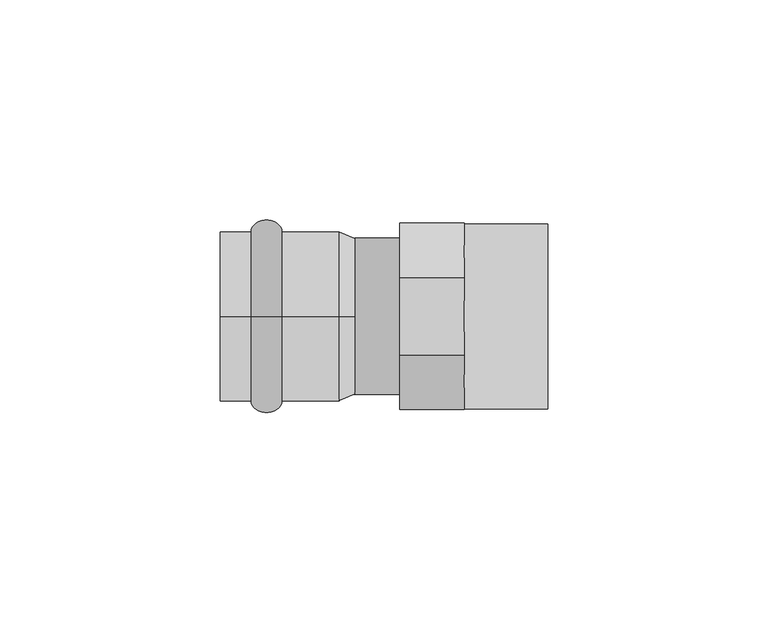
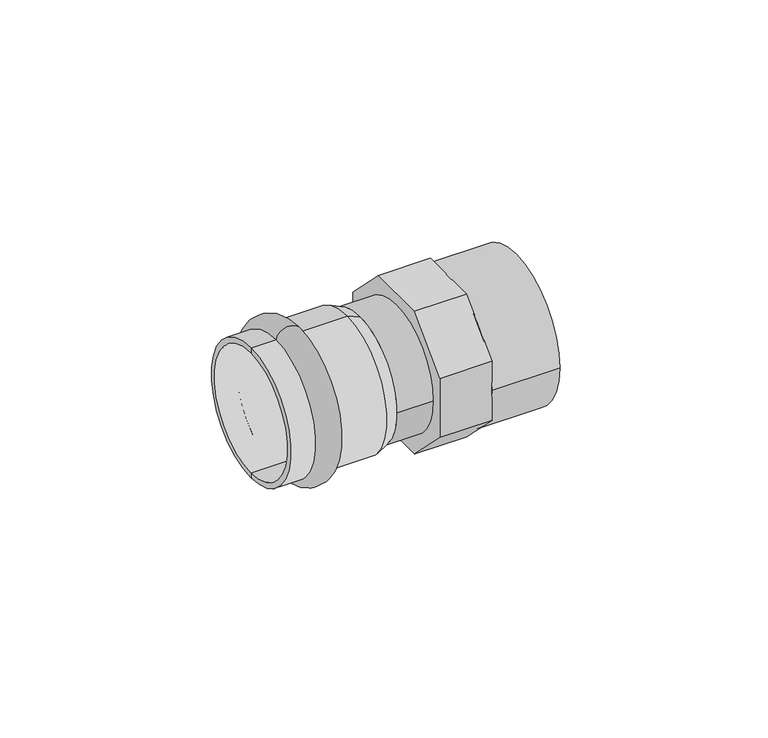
"""IFC4 building model written with IfcOpenShell, lengths in millimetres: pipe fitting geometry."""

from ifc_helpers import new_model, si_unit, point, frame, origin, origin_2d, place, context, project, spatial, polyline, circle_curve, ellipse_curve, trimmed, segment, composite_curve, outline, extrude, source, transform, mapped, element, save
from ifc_brep_helpers import plane_surface, cylinder_surface, revolved_surface, advanced_brep


def pipe_fitting_64316f65(model_context):
    return source(origin(), model_context, "Body", "SolidModel", [
        advanced_brep(
        [(-20.0, 0.0, 19.25), (-20.0, 0.0, -19.25), (-13.0, 0.0, -19.25), (-13.0, 0.0, 19.25)],
        [
            (0, 1, circle_curve(frame((-20.0, 0.0, 0.0), z_axis=(-1.0, 0.0, 0.0), x_axis=(0.0, 0.0, -1.0)), 19.25)),
            (1, 2),
            (2, 3, circle_curve(frame((-13.0, 0.0, 0.0), z_axis=(1.0, 0.0, 0.0), x_axis=(0.0, 0.0, -1.0)), 19.25)),
            (3, 0),
            (1, 0, circle_curve(frame((-20.0, 0.0, 0.0), z_axis=(-1.0, 0.0, 0.0), x_axis=(0.0, 0.0, -1.0)), 19.25)),
            (3, 2, circle_curve(frame((-13.0, 0.0, 0.0), z_axis=(1.0, 0.0, 0.0), x_axis=(0.0, 0.0, -1.0)), 19.25)),
            (2, 1, ellipse_curve(frame((-16.5, 0.0, -19.25), z_axis=(0.0, 1.0, 0.0), x_axis=(-1.0, 0.0, 0.0)), 3.5, 2.75)),
            (0, 3, ellipse_curve(frame((-16.5, 0.0, 19.25), z_axis=(0.0, 1.0, 0.0), x_axis=(-1.0, 0.0, 0.0)), 3.5, 2.75)),
        ],
        [
            revolved_surface(polyline([(-13.0, 0.0, -19.25), (-20.0, 0.0, -19.25)]), (3.0, 0.0, 0.0), (1.0, 0.0, 0.0)),
            revolved_surface(trimmed(ellipse_curve(frame((-16.5, 0.0, -19.25), z_axis=(0.0, -1.0, 0.0), x_axis=(-1.0, 0.0, 0.0)), 3.5, 2.75), [point((-20.0, 0.0, -19.25))], [point((-13.0, 0.0, -19.25))], True, "CARTESIAN"), (3.0, 0.0, 0.0), (1.0, 0.0, 0.0)),
        ],
        [
            (0, [[1, 2, 3, 4]]),
            (0, [[5, -4, 6, -2]]),
            (1, [[-3, 7, -1, 8]]),
            (1, [[-6, -8, -5, -7]]),
        ],
    ),
        advanced_brep(
        [(3.5337785, 0.0, 17.75), (3.5337785, 0.0, -17.75), (0.0, 0.0, -19.25), (0.0, 0.0, 19.25), (-27.0, 0.0, 17.75), (-27.0, 0.0, -17.75), (-27.0, 0.0, 19.25), (-27.0, 0.0, -19.25)],
        [
            (0, 1, circle_curve(frame((3.5337785, 0.0, 0.0), z_axis=(-1.0, 0.0, 0.0), x_axis=(0.0, 0.0, -1.0)), 17.75)),
            (1, 2),
            (2, 3, circle_curve(frame((0.0, 0.0, 0.0), z_axis=(1.0, 0.0, 0.0), x_axis=(0.0, 0.0, -1.0)), 19.25)),
            (3, 0),
            (1, 0, circle_curve(frame((3.5337785, 0.0, 0.0), z_axis=(-1.0, 0.0, 0.0), x_axis=(0.0, 0.0, -1.0)), 17.75)),
            (3, 2, circle_curve(frame((0.0, 0.0, 0.0), z_axis=(1.0, 0.0, 0.0), x_axis=(0.0, 0.0, -1.0)), 19.25)),
            (4, 5, circle_curve(frame((-27.0, 0.0, 0.0), z_axis=(-1.0, 0.0, 0.0), x_axis=(0.0, 0.0, -1.0)), 17.75)),
            (5, 1),
            (0, 4),
            (5, 4, circle_curve(frame((-27.0, 0.0, 0.0), z_axis=(-1.0, 0.0, 0.0), x_axis=(0.0, 0.0, -1.0)), 17.75)),
            (6, 7, circle_curve(frame((-27.0, 0.0, 0.0), z_axis=(-1.0, 0.0, 0.0), x_axis=(0.0, 0.0, -1.0)), 19.25)),
            (7, 5),
            (4, 6),
            (7, 6, circle_curve(frame((-27.0, 0.0, 0.0), z_axis=(-1.0, 0.0, 0.0), x_axis=(0.0, 0.0, -1.0)), 19.25)),
            (2, 7),
            (6, 3),
        ],
        [
            revolved_surface(polyline([(0.0, 0.0, -19.25), (3.5337785, 0.0, -17.75)]), (3.0, 0.0, 0.0), (1.0, 0.0, 0.0)),
            revolved_surface(polyline([(3.5337785, 0.0, -17.75), (-27.0, 0.0, -17.75)]), (3.0, 0.0, 0.0), (1.0, 0.0, 0.0)),
            plane_surface(frame((-27.0, 0.0, 0.0), z_axis=(-1.0, 0.0, 0.0), x_axis=(0.0, 0.0, -1.0))),
            cylinder_surface(frame((3.0, 0.0, 0.0), z_axis=(1.0, 0.0, 0.0), x_axis=(0.0, 0.0, -1.0)), 19.25),
        ],
        [
            (0, [[1, 2, 3, 4]]),
            (0, [[5, -4, 6, -2]]),
            (1, [[7, 8, -1, 9]]),
            (1, [[10, -9, -5, -8]]),
            (2, [[11, 12, -7, 13]]),
            (2, [[14, -13, -10, -12]]),
            (3, [[-3, 15, -11, 16]]),
            (3, [[-6, -16, -14, -15]]),
        ],
    ),
        extrude(outline(composite_curve([segment(trimmed(circle_curve(origin_2d(), 21.0), [point((-21.0, 0.0))], [point((21.0, 0.0))], False, "CARTESIAN"), True, "CONTINUOUS"), segment(trimmed(circle_curve(origin_2d(), 21.0), [point((21.0, 0.0))], [point((-21.0, 0.0))], False, "CARTESIAN"), True, "CONTINUOUS")], self_intersect=False)), frame((28.3337785, 0.0, 0.0), z_axis=(1.0, 0.0, 0.0), x_axis=(0.0, 1.0, 0.0)), (0.0, 0.0, 1.0), 19.0),
        extrude(outline(composite_curve([segment(trimmed(circle_curve(origin_2d(), 17.75), [point((-17.75, 0.0))], [point((17.75, 0.0))], False, "CARTESIAN"), True, "CONTINUOUS"), segment(trimmed(circle_curve(origin_2d(), 17.75), [point((17.75, 0.0))], [point((-17.75, 0.0))], False, "CARTESIAN"), True, "CONTINUOUS")], self_intersect=False)), frame((3.5337785, 0.0, 0.0), z_axis=(1.0, 0.0, 0.0), x_axis=(0.0, 1.0, 0.0)), (0.0, 0.0, 1.0), 10.2),
        extrude(outline(polyline([(-21.15, 8.7606168), (-8.7606168, 21.15), (8.7606168, 21.15), (21.15, 8.7606168), (21.15, -8.7606168), (8.7606168, -21.15), (-8.7606168, -21.15), (-21.15, -8.7606168), (-21.15, 8.7606168)]), holes=[polyline([(5.2812229, -12.75), (12.75, -5.2812229), (12.75, 5.2812229), (5.2812229, 12.75), (-5.2812229, 12.75), (-12.75, 5.2812229), (-12.75, -5.2812229), (-5.2812229, -12.75), (5.2812229, -12.75)])]), frame((13.7337785, 0.0, 0.0), z_axis=(1.0, 0.0, 0.0), x_axis=(0.0, 1.0, 0.0)), (0.0, 0.0, 1.0), 14.6),
    ])


if __name__ == "__main__":
    model = new_model("IFC4")
    model_context = context("Model", 3, world=origin())
    ifc_project = project(units=[si_unit("LENGTHUNIT", "METRE", prefix="MILLI")], contexts=[model_context])
    site = spatial("IfcSite", under=ifc_project)
    building = spatial("IfcBuilding", under=site)
    placement = place(None, origin())
    pipe_fitting_shape = pipe_fitting_64316f65(model_context)
    element("IfcPipeFitting", 1, ObjectType="РЕХАУ_Пресс Муфта НР : 35 x R 1 1/4\"", at=placement, inside=building, context=model_context, shape_type="MappedRepresentation", body=[
        mapped(pipe_fitting_shape, transform((0.0, 0.0, 0.0), x_axis=(1.0, 0.0, 0.0), y_axis=(0.0, 1.0, 0.0), z_axis=(0.0, 0.0, 1.0))),
    ])
    save(model, "model.ifc")
